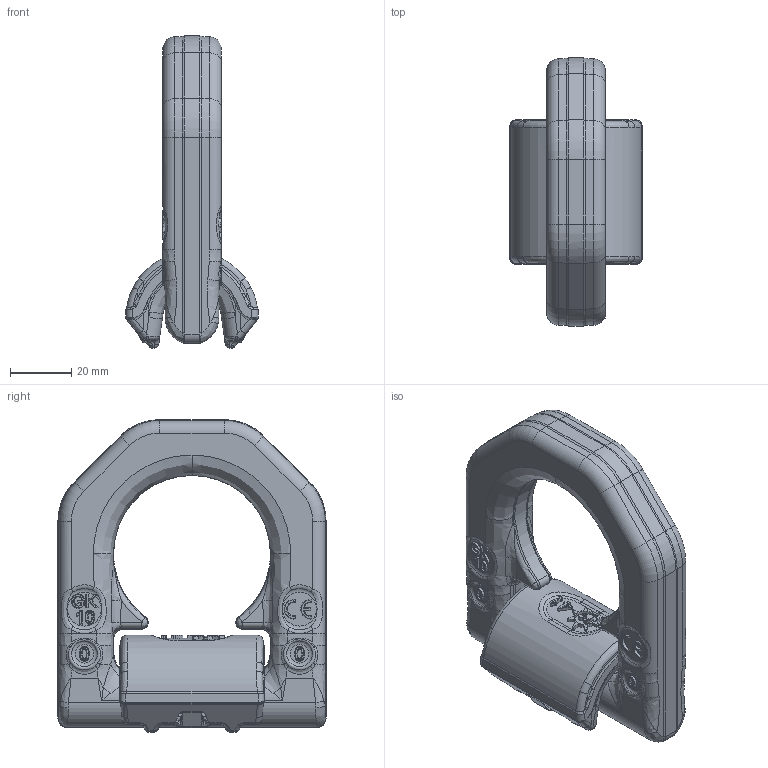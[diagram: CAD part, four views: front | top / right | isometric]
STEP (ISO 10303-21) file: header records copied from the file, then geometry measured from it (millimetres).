
FILE_DESCRIPTION((''),'2;1');
FILE_NAME('SFA-2615-0000_SFA-2615-0000_SFA-2640-0000_90°','2013-12-04T16:39:14',('Luca'),(''),'CADlook_v9.0','Cimatron E 8.0','');
FILE_SCHEMA(('AUTOMOTIVE_DESIGN { 1 2 10303 214 0 1 1 1 }'));
Length unit declared in the file: millimetre
Bounding box: 43 x 87.2 x 101.61 mm (x, y, z)
Volume: 116116.4 mm3; surface area: 26070.4 mm2
Topology: 2 solids, 2 shells, 1101 faces, 2777 edges, 1693 vertices
Faces by surface type: bspline 491, plane 281, cylinder 216, torus 66, cone 27, sphere 20
Full cylindrical faces by diameter (mm): 7.2 x2
Entity records: 87336 total; most frequent: CARTESIAN_POINT 55298, ORIENTED_EDGE 5502, DIRECTION 3929, EDGE_CURVE 2751, VERTEX_POINT 1691, AXIS2_PLACEMENT_3D 1535, EDGE_LOOP 1140, COLOUR_RGB 1103
